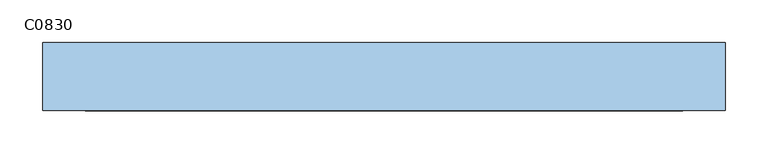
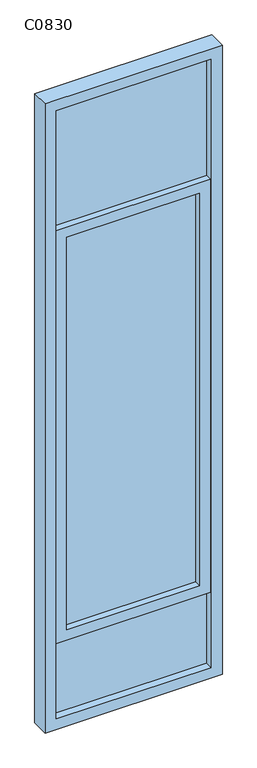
"""IFC4 building model written with IfcOpenShell, lengths in millimetres: window geometry, 组合窗 - 双层单列(固定+推拉) - 副本 : C0830."""

import ifcopenshell
import ifcopenshell.guid

model = None  # the IFC model being written
_history = None  # IfcOwnerHistory: only IFC2X3 demands one
_inside = {}  # id of a spatial element -> (the spatial element, [elements in it])
_under = {}  # id of a project, library or spatial element -> (it, [spatial elements below it])
_declared = {}  # id of a project -> (the project, [libraries it declares])
_typed = {}  # id of a type object -> (the type object, [elements of that type])
_made_of = {}  # id of a material, layer set ... -> (it, [elements and type objects made of it])


def new_model(schema):
    """Start an empty IFC model of exactly this schema.

    Asked for "IFC4X3", IfcOpenShell would pick the latest addendum, in which some entities
    have other attributes; the version numbers below select the first issue.
    IFC2X3 requires an IfcOwnerHistory on every rooted entity: one is made here for all.
    """
    global model, _history
    if schema == "IFC4X3":
        model = ifcopenshell.file(schema_version=(4, 3, 0, 0))
    else:
        model = ifcopenshell.file(schema=schema)
    _inside.clear()
    _under.clear()
    _declared.clear()
    _typed.clear()
    _made_of.clear()
    _history = None
    if model.schema == "IFC2X3":
        org = make("IfcOrganization", Name="unknown")
        user = make(
            "IfcPersonAndOrganization",
            ThePerson=make("IfcPerson", FamilyName="unknown"),
            TheOrganization=org,
        )
        app = make(
            "IfcApplication",
            ApplicationDeveloper=org,
            Version="unknown",
            ApplicationFullName="unknown",
            ApplicationIdentifier="unknown",
        )
        _history = make(
            "IfcOwnerHistory",
            OwningUser=user,
            OwningApplication=app,
            ChangeAction="ADDED",
            CreationDate=0,
        )
    return model


def make(cls, **values):
    """One entity of the class cls with the attributes given. An attribute that is None is left unset."""
    return model.create_entity(
        cls, **{name: value for name, value in values.items() if value is not None}
    )


def rooted(cls, **values):
    """An entity with a GlobalId (a new one), such as an element, a storey or a relation."""
    return make(cls, GlobalId=ifcopenshell.guid.new(), OwnerHistory=_history, **values)


def si_unit(unit_type, name, prefix=None):
    """IfcSIUnit, for example si_unit("LENGTHUNIT", "METRE", prefix="MILLI")."""
    return make("IfcSIUnit", UnitType=unit_type, Prefix=prefix, Name=name)


def assignment(units):
    """IfcUnitAssignment: the units of a project."""
    return None if units is None else make("IfcUnitAssignment", Units=units)


def point(xyz):
    """IfcCartesianPoint."""
    return None if xyz is None else make("IfcCartesianPoint", Coordinates=xyz)


def direction(xyz):
    """IfcDirection."""
    return None if xyz is None else make("IfcDirection", DirectionRatios=xyz)


def frame(location, z_axis=None, x_axis=None):
    """IfcAxis2Placement3D, a coordinate frame: its origin and axes. An axis left out is left unset."""
    return make(
        "IfcAxis2Placement3D",
        Location=point(location),
        Axis=direction(z_axis),
        RefDirection=direction(x_axis),
    )


def origin():
    """The frame at (0, 0, 0) with its axes left unset."""
    return frame((0.0, 0.0, 0.0))


def place(relative_to, where):
    """IfcLocalPlacement: puts the frame where relative to a parent placement (None: the world)."""
    return make(
        "IfcLocalPlacement", PlacementRelTo=relative_to, RelativePlacement=where
    )


def context(
    kind, dimensions, precision=None, world=None, true_north=None, identifier=None
):
    """IfcGeometricRepresentationContext, for example the 3D "Model" context."""
    return make(
        "IfcGeometricRepresentationContext",
        ContextIdentifier=identifier,
        ContextType=kind,
        CoordinateSpaceDimension=dimensions,
        Precision=precision,
        WorldCoordinateSystem=world,
        TrueNorth=true_north,
    )


def project(units=None, contexts=None):
    """IfcProject with its units and contexts."""
    return rooted(
        "IfcProject",
        Name="project",
        RepresentationContexts=contexts,
        UnitsInContext=assignment(units),
    )


def spatial(cls, under=None, at=None, **own):
    """A site, building, storey or space (cls), placed at a placement, below another one or the project."""
    s = rooted(cls, ObjectPlacement=at, **own)
    if under is not None:
        _under.setdefault(under.id(), (under, []))[1].append(s)
    return s


def polyline(points):
    """IfcPolyline through the points."""
    return make("IfcPolyline", Points=[point(p) for p in points])


def outline(outer, holes=None, kind="AREA"):
    """IfcArbitraryClosedProfileDef: a profile drawn as a closed curve; with holes, ...WithVoids."""
    if holes is None:
        return make("IfcArbitraryClosedProfileDef", ProfileType=kind, OuterCurve=outer)
    return make(
        "IfcArbitraryProfileDefWithVoids",
        ProfileType=kind,
        OuterCurve=outer,
        InnerCurves=holes,
    )


def extrude(swept, where, along, depth):
    """IfcExtrudedAreaSolid: the profile swept, set in the frame where, extruded along a direction by depth."""
    return make(
        "IfcExtrudedAreaSolid",
        SweptArea=swept,
        Position=where,
        ExtrudedDirection=direction(along),
        Depth=depth,
    )


def shape(context_of_items, identifier, shape_type, items):
    """IfcShapeRepresentation: the items that make up one representation, for example the "Body"."""
    return make(
        "IfcShapeRepresentation",
        ContextOfItems=context_of_items,
        RepresentationIdentifier=identifier,
        RepresentationType=shape_type,
        Items=items,
    )


def source(mapping_origin, context_of_items, identifier, shape_type, items):
    """IfcRepresentationMap: a shape defined once, which mapped items show again and again."""
    return make(
        "IfcRepresentationMap",
        MappingOrigin=mapping_origin,
        MappedRepresentation=shape(context_of_items, identifier, shape_type, items),
    )


def transform(
    local_origin,
    x_axis=None,
    y_axis=None,
    z_axis=None,
    scale=None,
    scale2=None,
    scale3=None,
    uniform=True,
):
    """IfcCartesianTransformationOperator3D, or its non-uniform kind. x_axis, y_axis, z_axis: its Axis1, 2, 3."""
    if uniform:
        return make(
            "IfcCartesianTransformationOperator3D",
            Axis1=direction(x_axis),
            Axis2=direction(y_axis),
            LocalOrigin=point(local_origin),
            Scale=scale,
            Axis3=direction(z_axis),
        )
    return make(
        "IfcCartesianTransformationOperator3DnonUniform",
        Axis1=direction(x_axis),
        Axis2=direction(y_axis),
        LocalOrigin=point(local_origin),
        Scale=scale,
        Axis3=direction(z_axis),
        Scale2=scale2,
        Scale3=scale3,
    )


def mapped(mapping_source, mapping_target):
    """IfcMappedItem: shows the shape of a source again, moved by a transform."""
    return make(
        "IfcMappedItem", MappingSource=mapping_source, MappingTarget=mapping_target
    )


def made_of(thing, what):
    """Note that an element or type object is made of a material, layer set ...; save() writes the relation."""
    if what is not None:
        _made_of.setdefault(what.id(), (what, []))[1].append(thing)
    return thing


def element(
    cls,
    number,
    at=None,
    inside=None,
    cuts=None,
    type_object=None,
    material=None,
    context=None,
    identifier="Body",
    shape_type=None,
    held_by="IfcProductDefinitionShape",
    body=None,
    shapes=None,
    **own,
):
    """One element of the class cls, such as IfcWall. Its Tag is "e" and its number.

    at: its placement. inside: the storey or other place that contains it. cuts: it is an
    opening in that element (IfcRelVoidsElement). A single representation is given by context,
    identifier, shape_type and body (its items); several are given by shapes. held_by: the class
    of the entity that holds the representations. save() writes the other relations.
    """
    e = rooted(cls, Tag="e%d" % number, ObjectPlacement=at, **own)
    if body is not None:
        shapes = [shape(context, identifier, shape_type, body)]
    if shapes is not None:
        e.Representation = make(held_by, Representations=shapes)
    if inside is not None:
        _inside.setdefault(inside.id(), (inside, []))[1].append(e)
    if cuts is not None:
        rooted(
            "IfcRelVoidsElement", RelatingBuildingElement=cuts, RelatedOpeningElement=e
        )
    if type_object is not None:
        _typed.setdefault(type_object.id(), (type_object, []))[1].append(e)
    return made_of(e, material)


def aggregate(whole, parts):
    """IfcRelAggregates: a whole, such as a stair, and the parts it consists of."""
    return rooted("IfcRelAggregates", RelatingObject=whole, RelatedObjects=parts)


def save(model, path):
    """Write the relations noted so far, then the file.

    IfcRelAggregates (storeys below a building ...), IfcRelContainedInSpatialStructure (elements
    in a storey), IfcRelDefinesByType, IfcRelAssociatesMaterial and IfcRelDeclares: one each for
    every whole, place, type object, material and project.
    """
    for whole, parts in _under.values():
        aggregate(whole, parts)
    for where, things in _inside.values():
        rooted(
            "IfcRelContainedInSpatialStructure",
            RelatedElements=things,
            RelatingStructure=where,
        )
    for kind, things in _typed.values():
        rooted("IfcRelDefinesByType", RelatedObjects=things, RelatingType=kind)
    for what, things in _made_of.values():
        rooted("IfcRelAssociatesMaterial", RelatedObjects=things, RelatingMaterial=what)
    for by, libraries in _declared.values():
        rooted("IfcRelDeclares", RelatingContext=by, RelatedDefinitions=libraries)
    model.write(path)


def c0830_e6cf9a24(model_context):
    return source(origin(), model_context, "Body", "SweptSolid", [
        extrude(outline(polyline([(350.0, -10.0), (-350.0, -10.0), (-350.0, 0.0), (350.0, 0.0), (350.0, -10.0)])), frame((0.0, 0.0, 950.0), z_axis=(0.0, 0.0, 1.0), x_axis=(1.0, 0.0, 0.0)), (0.0, 0.0, 1.0), 2900.0),
        extrude(outline(polyline([(3275.0, 350.0), (3275.0, -350.0), (1305.0, -350.0), (1305.0, 350.0), (3275.0, 350.0)]), holes=[polyline([(1355.0, 300.0), (1355.0, -300.0), (3225.0, -300.0), (3225.0, 300.0), (1355.0, 300.0)])]), frame((0.0, -40.0, 0.0), z_axis=(0.0, 1.0, 0.0), x_axis=(0.0, 0.0, 1.0)), (0.0, 0.0, 1.0), 30.0),
        extrude(outline(polyline([(3900.0, -400.0), (900.0, -400.0), (900.0, 400.0), (3900.0, 400.0), (3900.0, -400.0)]), holes=[polyline([(3850.0, 350.0), (950.0, 350.0), (950.0, -350.0), (3850.0, -350.0), (3850.0, 350.0)])]), frame((0.0, -45.0, 0.0), z_axis=(0.0, 1.0, 0.0), x_axis=(0.0, 0.0, 1.0)), (0.0, 0.0, 1.0), 80.0),
    ])


if __name__ == "__main__":
    model = new_model("IFC4")
    model_context = context("Model", 3, world=origin())
    ifc_project = project(units=[si_unit("LENGTHUNIT", "METRE", prefix="MILLI")], contexts=[model_context])
    site = spatial("IfcSite", under=ifc_project)
    building = spatial("IfcBuilding", under=site)
    placement = place(None, origin())
    c0830_shape = c0830_e6cf9a24(model_context)
    element("IfcWindow", 1, ObjectType="组合窗 - 双层单列(固定+推拉) - 副本 : C0830", at=placement, inside=building, context=model_context, shape_type="MappedRepresentation", body=[
        mapped(c0830_shape, transform((0.0, 0.0, 0.0), x_axis=(1.0, 0.0, 0.0), y_axis=(0.0, 1.0, 0.0), z_axis=(0.0, 0.0, 1.0))),
    ])
    save(model, "model.ifc")
